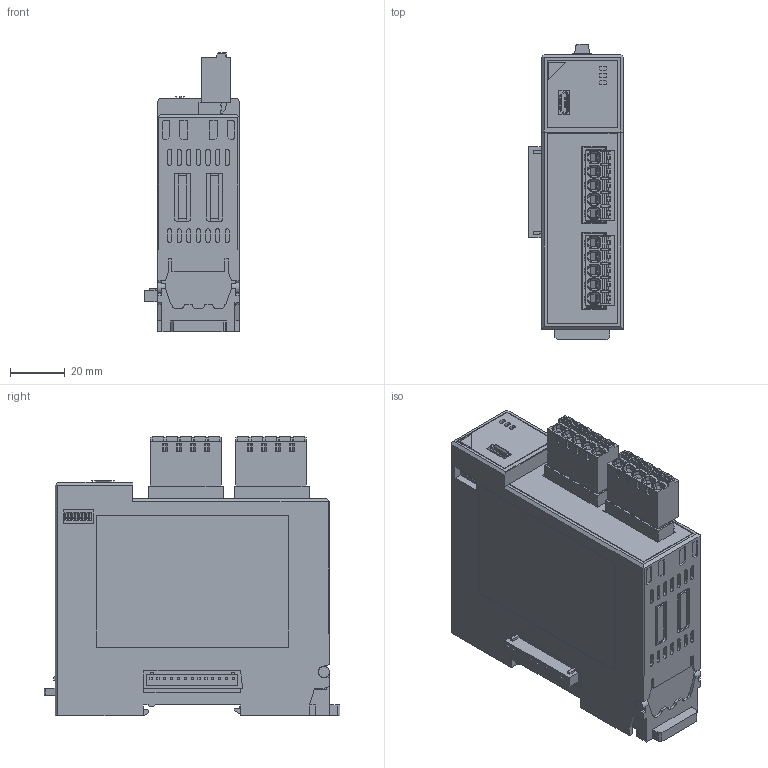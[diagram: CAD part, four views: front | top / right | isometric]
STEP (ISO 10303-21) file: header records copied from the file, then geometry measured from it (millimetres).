
FILE_DESCRIPTION (( 'STEP AP203' ), '1' );
FILE_NAME ('QAM2-2C_260721.STEP', '2026-07-22T00:43:18', ( '' ), ( '' ), 'SwSTEP 2.0', 'SolidWorks 2025', '' );
FILE_SCHEMA (( 'CONFIG_CONTROL_DESIGN' ));
Length unit declared in the file: millimetre
Products named in the file (3): QAM2-2C_260721; DINKLE_2ess-05P_new
Assembly tree (3 placements, depth 2):
  QAM2-2C_260721
    QAM2-2C_260721
    DINKLE_2ess-05P_new  x2
Bounding box: 34.5 x 107.85 x 102 mm (x, y, z)
Volume: 240895.3 mm3; surface area: 41941.7 mm2
Topology: 3 solids, 39 shells, 3658 faces, 9107 edges, 5680 vertices
Faces by surface type: plane 2102, cylinder 1032, bspline 224, torus 130, sphere 104, cone 66
Entity records: 86168 total; most frequent: CARTESIAN_POINT 26023, ORIENTED_EDGE 12660, DIRECTION 12000, EDGE_CURVE 6330, VECTOR 4630, LINE 4630, VERTEX_POINT 4017, AXIS2_PLACEMENT_3D 3685
